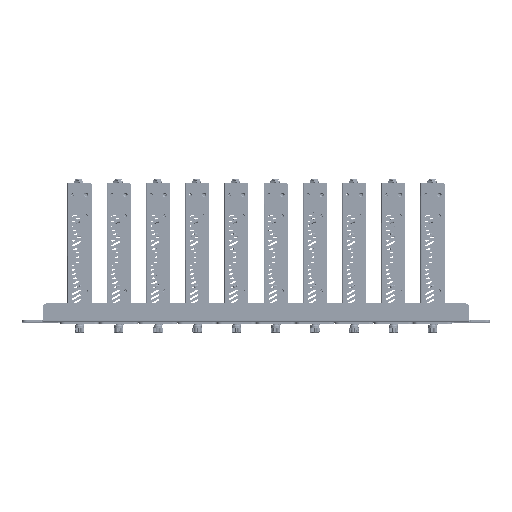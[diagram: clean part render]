
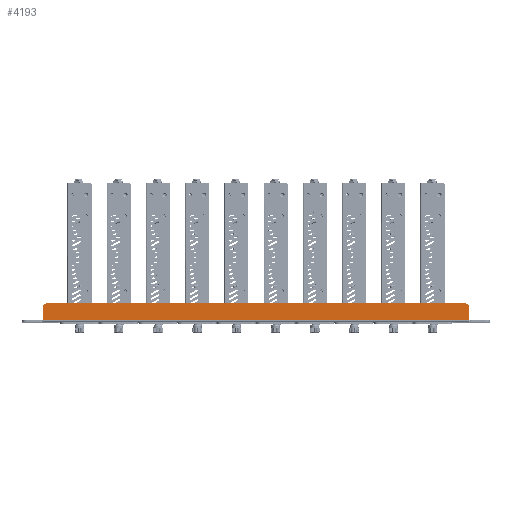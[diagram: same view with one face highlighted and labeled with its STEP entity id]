
A CAD part, top view. The second image highlights one B-rep face of the part: STEP entity #4193.
In plain terms, the highlighted planar face has unit normal (0, 0, 1).
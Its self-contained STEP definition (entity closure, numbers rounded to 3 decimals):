
#470=DIRECTION('',(1.,0.,0.));
#471=VECTOR('',#470,440.);
#472=CARTESIAN_POINT('',(-220.,2.2,265.9));
#473=LINE('',#472,#471);
#1077=CARTESIAN_POINT('',(-215.,15.,265.9));
#1078=DIRECTION('',(0.,0.,-1.));
#1079=DIRECTION('',(-1.,0.,0.));
#1080=AXIS2_PLACEMENT_3D('',#1077,#1078,#1079);
#1082=DIRECTION('',(1.,0.,0.));
#1083=VECTOR('',#1082,430.);
#1084=CARTESIAN_POINT('',(-215.,20.,265.9));
#1085=LINE('',#1084,#1083);
#1086=CARTESIAN_POINT('',(215.,15.,265.9));
#1087=DIRECTION('',(0.,0.,-1.));
#1088=DIRECTION('',(0.,1.,0.));
#1089=AXIS2_PLACEMENT_3D('',#1086,#1087,#1088);
#1091=DIRECTION('',(0.,-1.,0.));
#1092=VECTOR('',#1091,12.8);
#1093=CARTESIAN_POINT('',(220.,15.,265.9));
#1094=LINE('',#1093,#1092);
#1095=DIRECTION('',(0.,1.,0.));
#1096=VECTOR('',#1095,12.8);
#1097=CARTESIAN_POINT('',(-220.,2.2,265.9));
#1098=LINE('',#1097,#1096);
#2878=CARTESIAN_POINT('',(-220.,2.2,265.9));
#2879=VERTEX_POINT('',#2878);
#2880=CARTESIAN_POINT('',(220.,2.2,265.9));
#2881=VERTEX_POINT('',#2880);
#2887=CARTESIAN_POINT('',(-220.,15.,265.9));
#2889=VERTEX_POINT('',#2887);
#2891=CARTESIAN_POINT('',(-215.,20.,265.9));
#2892=VERTEX_POINT('',#2891);
#2895=CARTESIAN_POINT('',(215.,20.,265.9));
#2896=VERTEX_POINT('',#2895);
#2897=CARTESIAN_POINT('',(220.,15.,265.9));
#2898=VERTEX_POINT('',#2897);
#4177=CARTESIAN_POINT('',(241.5,0.,265.9));
#4178=DIRECTION('',(0.,0.,1.));
#4179=DIRECTION('',(1.,0.,0.));
#4180=AXIS2_PLACEMENT_3D('',#4177,#4178,#4179);
#4181=PLANE('',#4180);
#4182=ORIENTED_EDGE('',*,*,#4160,.T.);
#4184=ORIENTED_EDGE('',*,*,#4183,.T.);
#4186=ORIENTED_EDGE('',*,*,#4185,.T.);
#4188=ORIENTED_EDGE('',*,*,#4187,.T.);
#4189=ORIENTED_EDGE('',*,*,#3347,.F.);
#4190=ORIENTED_EDGE('',*,*,#4140,.T.);
#4191=EDGE_LOOP('',(#4182,#4184,#4186,#4188,#4189,#4190));
#4192=FACE_OUTER_BOUND('',#4191,.F.);
#4193=ADVANCED_FACE('',(#4192),#4181,.T.);
#1081=CIRCLE('',#1080,5.);
#1090=CIRCLE('',#1089,5.);
#3347=EDGE_CURVE('',#2879,#2881,#473,.T.);
#4140=EDGE_CURVE('',#2879,#2889,#1098,.T.);
#4160=EDGE_CURVE('',#2889,#2892,#1081,.T.);
#4183=EDGE_CURVE('',#2892,#2896,#1085,.T.);
#4185=EDGE_CURVE('',#2896,#2898,#1090,.T.);
#4187=EDGE_CURVE('',#2898,#2881,#1094,.T.);
